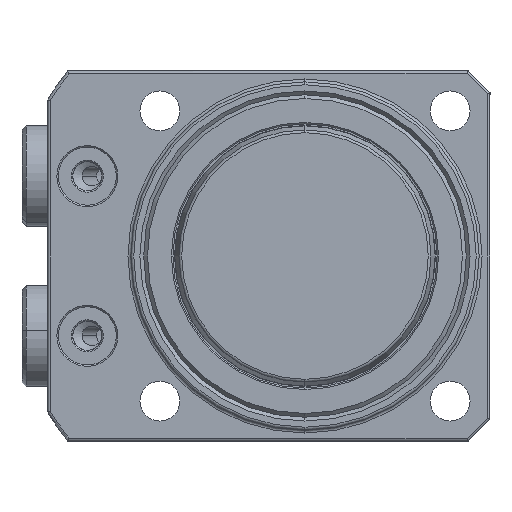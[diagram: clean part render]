
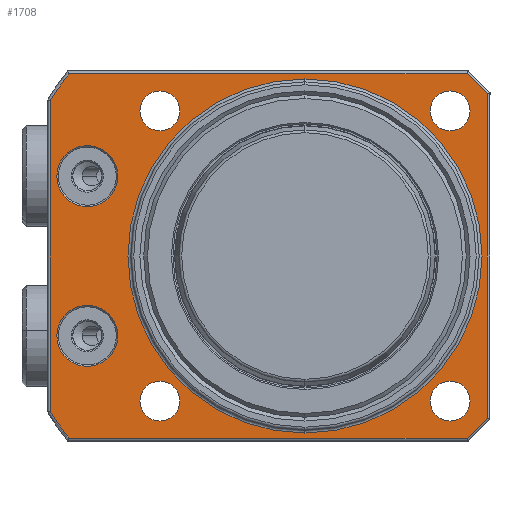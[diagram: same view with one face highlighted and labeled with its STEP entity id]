
A CAD part, front view. The second image highlights one B-rep face of the part: STEP entity #1708.
In plain terms, the highlighted planar face has unit normal (0, -1, 0) as drawn and (1, 0, 0) by its records, which use the part's own axes.
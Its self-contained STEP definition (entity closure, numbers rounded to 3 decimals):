
#865=FACE_BOUND('',#2162,.T.);
#866=FACE_BOUND('',#2163,.T.);
#867=FACE_BOUND('',#2164,.T.);
#868=FACE_BOUND('',#2165,.T.);
#869=FACE_BOUND('',#2166,.T.);
#870=FACE_BOUND('',#2167,.T.);
#871=FACE_BOUND('',#2168,.T.);
#872=FACE_BOUND('',#2169,.T.);
#941=PLANE('',#4989);
#1307=LINE('',#8040,#1516);
#1308=LINE('',#8043,#1517);
#1309=LINE('',#8045,#1518);
#1310=LINE('',#8049,#1519);
#1311=LINE('',#8053,#1520);
#1312=LINE('',#8055,#1521);
#1516=VECTOR('',#6026,1.);
#1517=VECTOR('',#6027,1.);
#1518=VECTOR('',#6028,1.);
#1519=VECTOR('',#6031,1.);
#1520=VECTOR('',#6034,1.);
#1521=VECTOR('',#6035,1.);
#1708=ADVANCED_FACE('',(#865,#866,#867,#868,#869,#870,#871,#872),#941,.F.);
#2162=EDGE_LOOP('',(#3203,#3204));
#2163=EDGE_LOOP('',(#3205,#3206));
#2164=EDGE_LOOP('',(#3207,#3208,#3209,#3210,#3211,#3212,#3213,#3214));
#2165=EDGE_LOOP('',(#3215,#3216));
#2166=EDGE_LOOP('',(#3217,#3218));
#2167=EDGE_LOOP('',(#3219,#3220));
#2168=EDGE_LOOP('',(#3221,#3222));
#2169=EDGE_LOOP('',(#3223,#3224));
#3203=ORIENTED_EDGE('',*,*,#4109,.T.);
#3204=ORIENTED_EDGE('',*,*,#4307,.T.);
#3205=ORIENTED_EDGE('',*,*,#4099,.T.);
#3206=ORIENTED_EDGE('',*,*,#4308,.T.);
#3207=ORIENTED_EDGE('',*,*,#4309,.T.);
#3208=ORIENTED_EDGE('',*,*,#4310,.T.);
#3209=ORIENTED_EDGE('',*,*,#4311,.T.);
#3210=ORIENTED_EDGE('',*,*,#4312,.T.);
#3211=ORIENTED_EDGE('',*,*,#4313,.T.);
#3212=ORIENTED_EDGE('',*,*,#4314,.T.);
#3213=ORIENTED_EDGE('',*,*,#4315,.T.);
#3214=ORIENTED_EDGE('',*,*,#4316,.T.);
#3215=ORIENTED_EDGE('',*,*,#4317,.T.);
#3216=ORIENTED_EDGE('',*,*,#4121,.T.);
#3217=ORIENTED_EDGE('',*,*,#4318,.T.);
#3218=ORIENTED_EDGE('',*,*,#4184,.T.);
#3219=ORIENTED_EDGE('',*,*,#4319,.T.);
#3220=ORIENTED_EDGE('',*,*,#4192,.T.);
#3221=ORIENTED_EDGE('',*,*,#4320,.T.);
#3222=ORIENTED_EDGE('',*,*,#4200,.T.);
#3223=ORIENTED_EDGE('',*,*,#4321,.T.);
#3224=ORIENTED_EDGE('',*,*,#4208,.T.);
#3638=VERTEX_POINT('',#7233);
#3639=VERTEX_POINT('',#7235);
#3648=VERTEX_POINT('',#7255);
#3649=VERTEX_POINT('',#7257);
#3660=VERTEX_POINT('',#7283);
#3661=VERTEX_POINT('',#7284);
#3716=VERTEX_POINT('',#7503);
#3717=VERTEX_POINT('',#7504);
#3724=VERTEX_POINT('',#7530);
#3725=VERTEX_POINT('',#7531);
#3732=VERTEX_POINT('',#7557);
#3733=VERTEX_POINT('',#7558);
#3740=VERTEX_POINT('',#7584);
#3741=VERTEX_POINT('',#7585);
#3792=VERTEX_POINT('',#8041);
#3793=VERTEX_POINT('',#8042);
#3794=VERTEX_POINT('',#8044);
#3795=VERTEX_POINT('',#8046);
#3796=VERTEX_POINT('',#8048);
#3797=VERTEX_POINT('',#8050);
#3798=VERTEX_POINT('',#8052);
#3799=VERTEX_POINT('',#8054);
#4099=EDGE_CURVE('',#3639,#3638,#4484,.T.);
#4109=EDGE_CURVE('',#3649,#3648,#4490,.T.);
#4121=EDGE_CURVE('',#3660,#3661,#4499,.T.);
#4184=EDGE_CURVE('',#3716,#3717,#4523,.T.);
#4192=EDGE_CURVE('',#3724,#3725,#4526,.T.);
#4200=EDGE_CURVE('',#3732,#3733,#4529,.T.);
#4208=EDGE_CURVE('',#3740,#3741,#4532,.T.);
#4307=EDGE_CURVE('',#3648,#3649,#4570,.T.);
#4308=EDGE_CURVE('',#3638,#3639,#4571,.T.);
#4309=EDGE_CURVE('',#3792,#3793,#1307,.T.);
#4310=EDGE_CURVE('',#3793,#3794,#1308,.T.);
#4311=EDGE_CURVE('',#3794,#3795,#1309,.T.);
#4312=EDGE_CURVE('',#3795,#3796,#4572,.T.);
#4313=EDGE_CURVE('',#3796,#3797,#1310,.T.);
#4314=EDGE_CURVE('',#3797,#3798,#4573,.T.);
#4315=EDGE_CURVE('',#3798,#3799,#1311,.T.);
#4316=EDGE_CURVE('',#3799,#3792,#1312,.T.);
#4317=EDGE_CURVE('',#3661,#3660,#4574,.T.);
#4318=EDGE_CURVE('',#3717,#3716,#4575,.T.);
#4319=EDGE_CURVE('',#3725,#3724,#4576,.T.);
#4320=EDGE_CURVE('',#3733,#3732,#4577,.T.);
#4321=EDGE_CURVE('',#3741,#3740,#4578,.T.);
#4484=CIRCLE('',#4838,4.2);
#4490=CIRCLE('',#4846,4.2);
#4499=CIRCLE('',#4858,24.4);
#4523=CIRCLE('',#4896,2.75);
#4526=CIRCLE('',#4901,2.75);
#4529=CIRCLE('',#4906,2.75);
#4532=CIRCLE('',#4911,2.75);
#4570=CIRCLE('',#4980,4.2);
#4571=CIRCLE('',#4981,4.2);
#4572=CIRCLE('',#4982,41.1);
#4573=CIRCLE('',#4983,41.1);
#4574=CIRCLE('',#4984,24.4);
#4575=CIRCLE('',#4985,2.75);
#4576=CIRCLE('',#4986,2.75);
#4577=CIRCLE('',#4987,2.75);
#4578=CIRCLE('',#4988,2.75);
#4838=AXIS2_PLACEMENT_3D('',#7234,#5664,#5665);
#4846=AXIS2_PLACEMENT_3D('',#7256,#5684,#5685);
#4858=AXIS2_PLACEMENT_3D('',#7282,#5711,#5712);
#4896=AXIS2_PLACEMENT_3D('',#7502,#5815,#5816);
#4901=AXIS2_PLACEMENT_3D('',#7529,#5829,#5830);
#4906=AXIS2_PLACEMENT_3D('',#7556,#5843,#5844);
#4911=AXIS2_PLACEMENT_3D('',#7583,#5857,#5858);
#4980=AXIS2_PLACEMENT_3D('',#8038,#6022,#6023);
#4981=AXIS2_PLACEMENT_3D('',#8039,#6024,#6025);
#4982=AXIS2_PLACEMENT_3D('',#8047,#6029,#6030);
#4983=AXIS2_PLACEMENT_3D('',#8051,#6032,#6033);
#4984=AXIS2_PLACEMENT_3D('',#8056,#6036,#6037);
#4985=AXIS2_PLACEMENT_3D('',#8057,#6038,#6039);
#4986=AXIS2_PLACEMENT_3D('',#8058,#6040,#6041);
#4987=AXIS2_PLACEMENT_3D('',#8059,#6042,#6043);
#4988=AXIS2_PLACEMENT_3D('',#8060,#6044,#6045);
#4989=AXIS2_PLACEMENT_3D('',#8061,#6046,#6047);
#5664=DIRECTION('',(-1.,0.,0.));
#5665=DIRECTION('',(0.,0.,1.));
#5684=DIRECTION('',(-1.,0.,0.));
#5685=DIRECTION('',(0.,0.,1.));
#5711=DIRECTION('',(-1.,0.,0.));
#5712=DIRECTION('',(0.,0.,1.));
#5815=DIRECTION('',(-1.,0.,0.));
#5816=DIRECTION('',(0.,0.,1.));
#5829=DIRECTION('',(-1.,0.,0.));
#5830=DIRECTION('',(0.,0.,1.));
#5843=DIRECTION('',(-1.,0.,0.));
#5844=DIRECTION('',(0.,0.,1.));
#5857=DIRECTION('',(-1.,0.,0.));
#5858=DIRECTION('',(0.,0.,1.));
#6022=DIRECTION('',(-1.,0.,0.));
#6023=DIRECTION('',(0.,0.,1.));
#6024=DIRECTION('',(-1.,0.,0.));
#6025=DIRECTION('',(0.,0.,1.));
#6026=DIRECTION('',(0.,0.,1.));
#6027=DIRECTION('',(0.,-0.707,0.707));
#6028=DIRECTION('',(0.,-1.,0.));
#6029=DIRECTION('',(1.,0.,0.));
#6030=DIRECTION('',(0.,0.,1.));
#6031=DIRECTION('',(0.,0.,-1.));
#6032=DIRECTION('',(1.,0.,0.));
#6033=DIRECTION('',(0.,0.,1.));
#6034=DIRECTION('',(0.,1.,0.));
#6035=DIRECTION('',(0.,0.707,0.707));
#6036=DIRECTION('',(-1.,0.,0.));
#6037=DIRECTION('',(0.,0.,1.));
#6038=DIRECTION('',(-1.,0.,0.));
#6039=DIRECTION('',(0.,0.,1.));
#6040=DIRECTION('',(-1.,0.,0.));
#6041=DIRECTION('',(0.,0.,1.));
#6042=DIRECTION('',(-1.,0.,0.));
#6043=DIRECTION('',(0.,0.,1.));
#6044=DIRECTION('',(-1.,0.,0.));
#6045=DIRECTION('',(0.,0.,1.));
#6046=DIRECTION('',(-1.,0.,0.));
#6047=DIRECTION('',(0.,0.,-1.));
#7233=CARTESIAN_POINT('',(0.,-30.,15.2));
#7234=CARTESIAN_POINT('',(0.,-30.,11.));
#7235=CARTESIAN_POINT('',(0.,-30.,6.8));
#7255=CARTESIAN_POINT('',(0.,-30.,-6.8));
#7256=CARTESIAN_POINT('',(0.,-30.,-11.));
#7257=CARTESIAN_POINT('',(0.,-30.,-15.2));
#7282=CARTESIAN_POINT('',(0.,0.,0.));
#7283=CARTESIAN_POINT('',(0.,0.,-24.4));
#7284=CARTESIAN_POINT('',(0.,0.,24.4));
#7502=CARTESIAN_POINT('',(0.,20.,-20.));
#7503=CARTESIAN_POINT('',(0.,20.,-22.75));
#7504=CARTESIAN_POINT('',(0.,20.,-17.25));
#7529=CARTESIAN_POINT('',(0.,20.,20.));
#7530=CARTESIAN_POINT('',(0.,20.,17.25));
#7531=CARTESIAN_POINT('',(0.,20.,22.75));
#7556=CARTESIAN_POINT('',(0.,-20.,20.));
#7557=CARTESIAN_POINT('',(0.,-20.,17.25));
#7558=CARTESIAN_POINT('',(0.,-20.,22.75));
#7583=CARTESIAN_POINT('',(0.,-20.,-20.));
#7584=CARTESIAN_POINT('',(0.,-20.,-22.75));
#7585=CARTESIAN_POINT('',(0.,-20.,-17.25));
#8038=CARTESIAN_POINT('',(0.,-30.,-11.));
#8039=CARTESIAN_POINT('',(0.,-30.,11.));
#8040=CARTESIAN_POINT('',(0.,25.1,22.5));
#8041=CARTESIAN_POINT('',(0.,25.1,-22.334));
#8042=CARTESIAN_POINT('',(0.,25.1,22.334));
#8043=CARTESIAN_POINT('',(0.,22.217,25.217));
#8044=CARTESIAN_POINT('',(0.,22.334,25.1));
#8045=CARTESIAN_POINT('',(0.,-32.741,25.1));
#8046=CARTESIAN_POINT('',(0.,-32.545,25.1));
#8047=CARTESIAN_POINT('',(0.,0.,0.));
#8048=CARTESIAN_POINT('',(0.,-35.1,21.382));
#8049=CARTESIAN_POINT('',(0.,-35.1,-21.494));
#8050=CARTESIAN_POINT('',(0.,-35.1,-21.382));
#8051=CARTESIAN_POINT('',(0.,0.,0.));
#8052=CARTESIAN_POINT('',(0.,-32.545,-25.1));
#8053=CARTESIAN_POINT('',(0.,22.5,-25.1));
#8054=CARTESIAN_POINT('',(0.,22.334,-25.1));
#8055=CARTESIAN_POINT('',(0.,25.217,-22.217));
#8056=CARTESIAN_POINT('',(0.,0.,0.));
#8057=CARTESIAN_POINT('',(0.,20.,-20.));
#8058=CARTESIAN_POINT('',(0.,20.,20.));
#8059=CARTESIAN_POINT('',(0.,-20.,20.));
#8060=CARTESIAN_POINT('',(0.,-20.,-20.));
#8061=CARTESIAN_POINT('',(0.,0.,0.));
